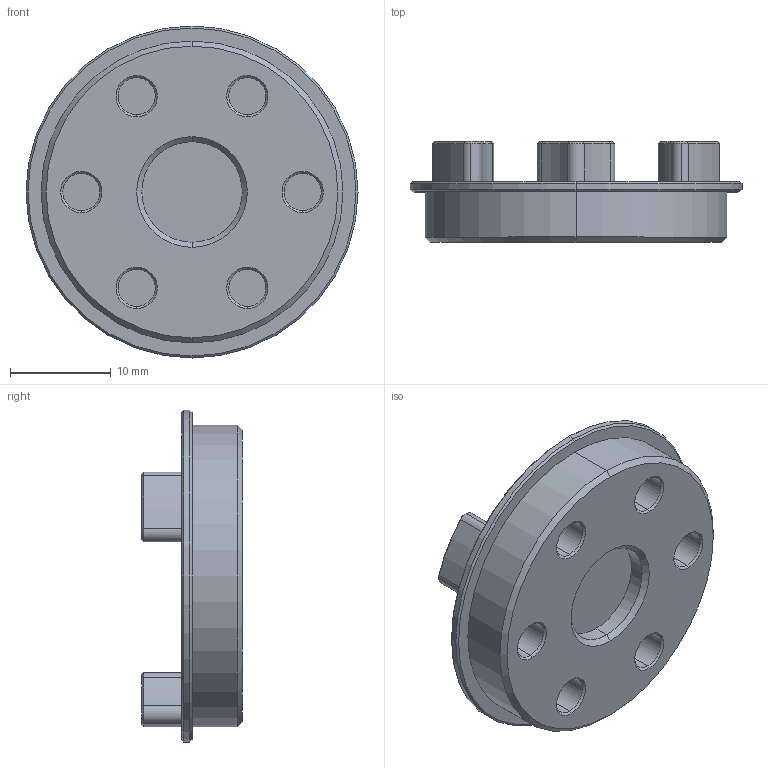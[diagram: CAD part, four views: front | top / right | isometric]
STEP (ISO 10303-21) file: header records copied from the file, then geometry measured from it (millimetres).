
FILE_DESCRIPTION (( 'STEP AP203' ), '1' );
FILE_NAME ('堤粣.STEP', '2025-02-25T05:08:52', ( '' ), ( '' ), 'SwSTEP 2.0', 'SolidWorks 2020', '' );
FILE_SCHEMA (( 'CONFIG_CONTROL_DESIGN' ));
Length unit declared in the file: millimetre
Products named in the file (1): 堤粣
Bounding box: 33 x 10 x 33 mm (x, y, z)
Volume: 3876.8 mm3; surface area: 3224.3 mm2
Topology: 1 solids, 1 shells, 123 faces, 261 edges, 157 vertices
Faces by surface type: cone 53, cylinder 51, plane 19
Entity records: 3401 total; most frequent: DIRECTION 666, CARTESIAN_POINT 542, ORIENTED_EDGE 522, AXIS2_PLACEMENT_3D 281, EDGE_CURVE 261, VERTEX_POINT 157, CIRCLE 157, EDGE_LOOP 140
